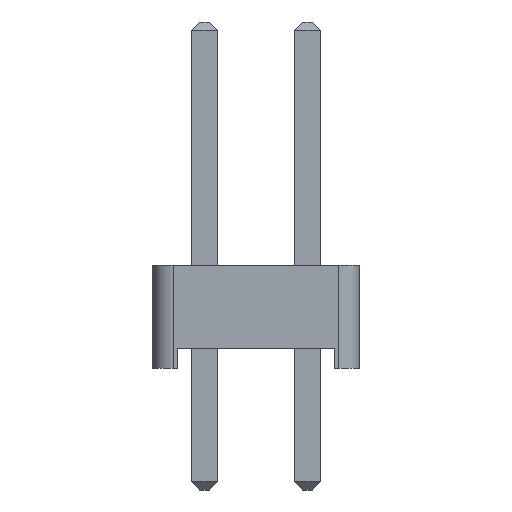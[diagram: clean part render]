
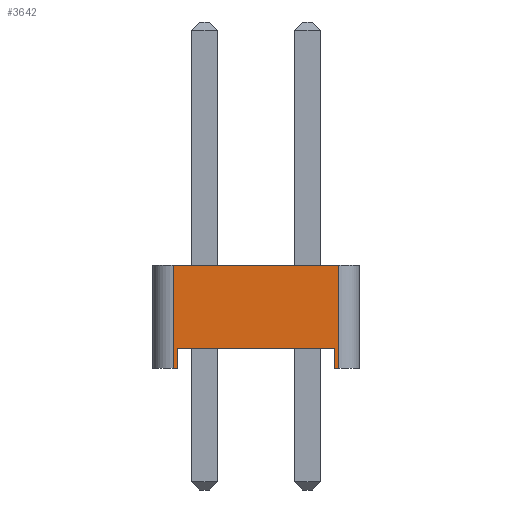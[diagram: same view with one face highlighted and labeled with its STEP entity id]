
A CAD part, left-side view. The second image highlights one B-rep face of the part: STEP entity #3642.
In plain terms, the highlighted planar face has unit normal (-1, 0, 0).
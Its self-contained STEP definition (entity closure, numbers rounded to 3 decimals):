
#3382 = VERTEX_POINT('',#3383);
#3383 = CARTESIAN_POINT('',(-1.27,2.04,0.));
#3391 = PLANE('',#3392);
#3392 = AXIS2_PLACEMENT_3D('',#3393,#3394,#3395);
#3393 = CARTESIAN_POINT('',(0.,0.,0.));
#3394 = DIRECTION('',(-0.,-0.,-1.));
#3395 = DIRECTION('',(-1.,0.,0.));
#3407 = CYLINDRICAL_SURFACE('',#3408,0.5);
#3408 = AXIS2_PLACEMENT_3D('',#3409,#3410,#3411);
#3409 = CARTESIAN_POINT('',(-0.77,2.04,0.));
#3410 = DIRECTION('',(0.,0.,1.));
#3411 = DIRECTION('',(0.,1.,0.));
#3509 = VERTEX_POINT('',#3510);
#3510 = CARTESIAN_POINT('',(-1.27,1.94,0.));
#3524 = PLANE('',#3525);
#3525 = AXIS2_PLACEMENT_3D('',#3526,#3527,#3528);
#3526 = CARTESIAN_POINT('',(1.27,1.94,0.));
#3527 = DIRECTION('',(0.,-1.,0.));
#3528 = DIRECTION('',(-1.,0.,0.));
#3536 = EDGE_CURVE('',#3509,#3382,#3537,.T.);
#3537 = SURFACE_CURVE('',#3538,(#3542,#3549),.PCURVE_S1.);
#3538 = LINE('',#3539,#3540);
#3539 = CARTESIAN_POINT('',(-1.27,-2.54,0.));
#3540 = VECTOR('',#3541,1.);
#3541 = DIRECTION('',(0.,1.,0.));
#3542 = PCURVE('',#3391,#3543);
#3543 = DEFINITIONAL_REPRESENTATION('',(#3544),#3548);
#3544 = LINE('',#3545,#3546);
#3545 = CARTESIAN_POINT('',(1.27,-2.54));
#3546 = VECTOR('',#3547,1.);
#3547 = DIRECTION('',(0.,1.));
#3548 = ( GEOMETRIC_REPRESENTATION_CONTEXT(2) 
PARAMETRIC_REPRESENTATION_CONTEXT() REPRESENTATION_CONTEXT('2D SPACE',''
  ) );
#3549 = PCURVE('',#3550,#3555);
#3550 = PLANE('',#3551);
#3551 = AXIS2_PLACEMENT_3D('',#3552,#3553,#3554);
#3552 = CARTESIAN_POINT('',(-1.27,-2.54,0.));
#3553 = DIRECTION('',(-1.,0.,0.));
#3554 = DIRECTION('',(0.,1.,0.));
#3555 = DEFINITIONAL_REPRESENTATION('',(#3556),#3560);
#3556 = LINE('',#3557,#3558);
#3557 = CARTESIAN_POINT('',(0.,0.));
#3558 = VECTOR('',#3559,1.);
#3559 = DIRECTION('',(1.,0.));
#3560 = ( GEOMETRIC_REPRESENTATION_CONTEXT(2) 
PARAMETRIC_REPRESENTATION_CONTEXT() REPRESENTATION_CONTEXT('2D SPACE',''
  ) );
#3566 = EDGE_CURVE('',#3382,#3567,#3569,.T.);
#3567 = VERTEX_POINT('',#3568);
#3568 = CARTESIAN_POINT('',(-1.27,2.04,2.54));
#3569 = SURFACE_CURVE('',#3570,(#3574,#3581),.PCURVE_S1.);
#3570 = LINE('',#3571,#3572);
#3571 = CARTESIAN_POINT('',(-1.27,2.04,0.));
#3572 = VECTOR('',#3573,1.);
#3573 = DIRECTION('',(0.,0.,1.));
#3574 = PCURVE('',#3407,#3575);
#3575 = DEFINITIONAL_REPRESENTATION('',(#3576),#3580);
#3576 = LINE('',#3577,#3578);
#3577 = CARTESIAN_POINT('',(1.571,0.));
#3578 = VECTOR('',#3579,1.);
#3579 = DIRECTION('',(0.,1.));
#3580 = ( GEOMETRIC_REPRESENTATION_CONTEXT(2) 
PARAMETRIC_REPRESENTATION_CONTEXT() REPRESENTATION_CONTEXT('2D SPACE',''
  ) );
#3581 = PCURVE('',#3550,#3582);
#3582 = DEFINITIONAL_REPRESENTATION('',(#3583),#3587);
#3583 = LINE('',#3584,#3585);
#3584 = CARTESIAN_POINT('',(4.58,0.));
#3585 = VECTOR('',#3586,1.);
#3586 = DIRECTION('',(0.,-1.));
#3587 = ( GEOMETRIC_REPRESENTATION_CONTEXT(2) 
PARAMETRIC_REPRESENTATION_CONTEXT() REPRESENTATION_CONTEXT('2D SPACE',''
  ) );
#3606 = PLANE('',#3607);
#3607 = AXIS2_PLACEMENT_3D('',#3608,#3609,#3610);
#3608 = CARTESIAN_POINT('',(0.,0.,2.54));
#3609 = DIRECTION('',(-0.,-0.,-1.));
#3610 = DIRECTION('',(-1.,0.,0.));
#3642 = ADVANCED_FACE('',(#3643),#3550,.T.);
#3643 = FACE_BOUND('',#3644,.T.);
#3644 = EDGE_LOOP('',(#3645,#3675,#3703,#3724,#3725,#3726,#3749,#3777));
#3645 = ORIENTED_EDGE('',*,*,#3646,.F.);
#3646 = EDGE_CURVE('',#3647,#3649,#3651,.T.);
#3647 = VERTEX_POINT('',#3648);
#3648 = CARTESIAN_POINT('',(-1.27,-2.04,0.));
#3649 = VERTEX_POINT('',#3650);
#3650 = CARTESIAN_POINT('',(-1.27,-1.94,0.));
#3651 = SURFACE_CURVE('',#3652,(#3656,#3663),.PCURVE_S1.);
#3652 = LINE('',#3653,#3654);
#3653 = CARTESIAN_POINT('',(-1.27,-2.54,0.));
#3654 = VECTOR('',#3655,1.);
#3655 = DIRECTION('',(0.,1.,0.));
#3656 = PCURVE('',#3550,#3657);
#3657 = DEFINITIONAL_REPRESENTATION('',(#3658),#3662);
#3658 = LINE('',#3659,#3660);
#3659 = CARTESIAN_POINT('',(0.,0.));
#3660 = VECTOR('',#3661,1.);
#3661 = DIRECTION('',(1.,0.));
#3662 = ( GEOMETRIC_REPRESENTATION_CONTEXT(2) 
PARAMETRIC_REPRESENTATION_CONTEXT() REPRESENTATION_CONTEXT('2D SPACE',''
  ) );
#3663 = PCURVE('',#3664,#3669);
#3664 = PLANE('',#3665);
#3665 = AXIS2_PLACEMENT_3D('',#3666,#3667,#3668);
#3666 = CARTESIAN_POINT('',(0.,0.,0.));
#3667 = DIRECTION('',(-0.,-0.,-1.));
#3668 = DIRECTION('',(-1.,0.,0.));
#3669 = DEFINITIONAL_REPRESENTATION('',(#3670),#3674);
#3670 = LINE('',#3671,#3672);
#3671 = CARTESIAN_POINT('',(1.27,-2.54));
#3672 = VECTOR('',#3673,1.);
#3673 = DIRECTION('',(0.,1.));
#3674 = ( GEOMETRIC_REPRESENTATION_CONTEXT(2) 
PARAMETRIC_REPRESENTATION_CONTEXT() REPRESENTATION_CONTEXT('2D SPACE',''
  ) );
#3675 = ORIENTED_EDGE('',*,*,#3676,.T.);
#3676 = EDGE_CURVE('',#3647,#3677,#3679,.T.);
#3677 = VERTEX_POINT('',#3678);
#3678 = CARTESIAN_POINT('',(-1.27,-2.04,2.54));
#3679 = SURFACE_CURVE('',#3680,(#3684,#3691),.PCURVE_S1.);
#3680 = LINE('',#3681,#3682);
#3681 = CARTESIAN_POINT('',(-1.27,-2.04,0.));
#3682 = VECTOR('',#3683,1.);
#3683 = DIRECTION('',(0.,0.,1.));
#3684 = PCURVE('',#3550,#3685);
#3685 = DEFINITIONAL_REPRESENTATION('',(#3686),#3690);
#3686 = LINE('',#3687,#3688);
#3687 = CARTESIAN_POINT('',(0.5,0.));
#3688 = VECTOR('',#3689,1.);
#3689 = DIRECTION('',(0.,-1.));
#3690 = ( GEOMETRIC_REPRESENTATION_CONTEXT(2) 
PARAMETRIC_REPRESENTATION_CONTEXT() REPRESENTATION_CONTEXT('2D SPACE',''
  ) );
#3691 = PCURVE('',#3692,#3697);
#3692 = CYLINDRICAL_SURFACE('',#3693,0.5);
#3693 = AXIS2_PLACEMENT_3D('',#3694,#3695,#3696);
#3694 = CARTESIAN_POINT('',(-0.77,-2.04,0.));
#3695 = DIRECTION('',(0.,0.,1.));
#3696 = DIRECTION('',(0.,-1.,0.));
#3697 = DEFINITIONAL_REPRESENTATION('',(#3698),#3702);
#3698 = LINE('',#3699,#3700);
#3699 = CARTESIAN_POINT('',(-1.571,0.));
#3700 = VECTOR('',#3701,1.);
#3701 = DIRECTION('',(-0.,1.));
#3702 = ( GEOMETRIC_REPRESENTATION_CONTEXT(2) 
PARAMETRIC_REPRESENTATION_CONTEXT() REPRESENTATION_CONTEXT('2D SPACE',''
  ) );
#3703 = ORIENTED_EDGE('',*,*,#3704,.T.);
#3704 = EDGE_CURVE('',#3677,#3567,#3705,.T.);
#3705 = SURFACE_CURVE('',#3706,(#3710,#3717),.PCURVE_S1.);
#3706 = LINE('',#3707,#3708);
#3707 = CARTESIAN_POINT('',(-1.27,-2.54,2.54));
#3708 = VECTOR('',#3709,1.);
#3709 = DIRECTION('',(0.,1.,0.));
#3710 = PCURVE('',#3550,#3711);
#3711 = DEFINITIONAL_REPRESENTATION('',(#3712),#3716);
#3712 = LINE('',#3713,#3714);
#3713 = CARTESIAN_POINT('',(0.,-2.54));
#3714 = VECTOR('',#3715,1.);
#3715 = DIRECTION('',(1.,0.));
#3716 = ( GEOMETRIC_REPRESENTATION_CONTEXT(2) 
PARAMETRIC_REPRESENTATION_CONTEXT() REPRESENTATION_CONTEXT('2D SPACE',''
  ) );
#3717 = PCURVE('',#3606,#3718);
#3718 = DEFINITIONAL_REPRESENTATION('',(#3719),#3723);
#3719 = LINE('',#3720,#3721);
#3720 = CARTESIAN_POINT('',(1.27,-2.54));
#3721 = VECTOR('',#3722,1.);
#3722 = DIRECTION('',(0.,1.));
#3723 = ( GEOMETRIC_REPRESENTATION_CONTEXT(2) 
PARAMETRIC_REPRESENTATION_CONTEXT() REPRESENTATION_CONTEXT('2D SPACE',''
  ) );
#3724 = ORIENTED_EDGE('',*,*,#3566,.F.);
#3725 = ORIENTED_EDGE('',*,*,#3536,.F.);
#3726 = ORIENTED_EDGE('',*,*,#3727,.T.);
#3727 = EDGE_CURVE('',#3509,#3728,#3730,.T.);
#3728 = VERTEX_POINT('',#3729);
#3729 = CARTESIAN_POINT('',(-1.27,1.94,0.5));
#3730 = SURFACE_CURVE('',#3731,(#3735,#3742),.PCURVE_S1.);
#3731 = LINE('',#3732,#3733);
#3732 = CARTESIAN_POINT('',(-1.27,1.94,0.));
#3733 = VECTOR('',#3734,1.);
#3734 = DIRECTION('',(0.,0.,1.));
#3735 = PCURVE('',#3550,#3736);
#3736 = DEFINITIONAL_REPRESENTATION('',(#3737),#3741);
#3737 = LINE('',#3738,#3739);
#3738 = CARTESIAN_POINT('',(4.48,0.));
#3739 = VECTOR('',#3740,1.);
#3740 = DIRECTION('',(0.,-1.));
#3741 = ( GEOMETRIC_REPRESENTATION_CONTEXT(2) 
PARAMETRIC_REPRESENTATION_CONTEXT() REPRESENTATION_CONTEXT('2D SPACE',''
  ) );
#3742 = PCURVE('',#3524,#3743);
#3743 = DEFINITIONAL_REPRESENTATION('',(#3744),#3748);
#3744 = LINE('',#3745,#3746);
#3745 = CARTESIAN_POINT('',(2.54,0.));
#3746 = VECTOR('',#3747,1.);
#3747 = DIRECTION('',(0.,-1.));
#3748 = ( GEOMETRIC_REPRESENTATION_CONTEXT(2) 
PARAMETRIC_REPRESENTATION_CONTEXT() REPRESENTATION_CONTEXT('2D SPACE',''
  ) );
#3749 = ORIENTED_EDGE('',*,*,#3750,.T.);
#3750 = EDGE_CURVE('',#3728,#3751,#3753,.T.);
#3751 = VERTEX_POINT('',#3752);
#3752 = CARTESIAN_POINT('',(-1.27,-1.94,0.5));
#3753 = SURFACE_CURVE('',#3754,(#3758,#3765),.PCURVE_S1.);
#3754 = LINE('',#3755,#3756);
#3755 = CARTESIAN_POINT('',(-1.27,1.94,0.5));
#3756 = VECTOR('',#3757,1.);
#3757 = DIRECTION('',(0.,-1.,0.));
#3758 = PCURVE('',#3550,#3759);
#3759 = DEFINITIONAL_REPRESENTATION('',(#3760),#3764);
#3760 = LINE('',#3761,#3762);
#3761 = CARTESIAN_POINT('',(4.48,-0.5));
#3762 = VECTOR('',#3763,1.);
#3763 = DIRECTION('',(-1.,0.));
#3764 = ( GEOMETRIC_REPRESENTATION_CONTEXT(2) 
PARAMETRIC_REPRESENTATION_CONTEXT() REPRESENTATION_CONTEXT('2D SPACE',''
  ) );
#3765 = PCURVE('',#3766,#3771);
#3766 = PLANE('',#3767);
#3767 = AXIS2_PLACEMENT_3D('',#3768,#3769,#3770);
#3768 = CARTESIAN_POINT('',(0.,0.,0.5));
#3769 = DIRECTION('',(0.,0.,1.));
#3770 = DIRECTION('',(1.,0.,0.));
#3771 = DEFINITIONAL_REPRESENTATION('',(#3772),#3776);
#3772 = LINE('',#3773,#3774);
#3773 = CARTESIAN_POINT('',(-1.27,1.94));
#3774 = VECTOR('',#3775,1.);
#3775 = DIRECTION('',(0.,-1.));
#3776 = ( GEOMETRIC_REPRESENTATION_CONTEXT(2) 
PARAMETRIC_REPRESENTATION_CONTEXT() REPRESENTATION_CONTEXT('2D SPACE',''
  ) );
#3777 = ORIENTED_EDGE('',*,*,#3778,.F.);
#3778 = EDGE_CURVE('',#3649,#3751,#3779,.T.);
#3779 = SURFACE_CURVE('',#3780,(#3784,#3791),.PCURVE_S1.);
#3780 = LINE('',#3781,#3782);
#3781 = CARTESIAN_POINT('',(-1.27,-1.94,0.));
#3782 = VECTOR('',#3783,1.);
#3783 = DIRECTION('',(0.,0.,1.));
#3784 = PCURVE('',#3550,#3785);
#3785 = DEFINITIONAL_REPRESENTATION('',(#3786),#3790);
#3786 = LINE('',#3787,#3788);
#3787 = CARTESIAN_POINT('',(0.6,0.));
#3788 = VECTOR('',#3789,1.);
#3789 = DIRECTION('',(0.,-1.));
#3790 = ( GEOMETRIC_REPRESENTATION_CONTEXT(2) 
PARAMETRIC_REPRESENTATION_CONTEXT() REPRESENTATION_CONTEXT('2D SPACE',''
  ) );
#3791 = PCURVE('',#3792,#3797);
#3792 = PLANE('',#3793);
#3793 = AXIS2_PLACEMENT_3D('',#3794,#3795,#3796);
#3794 = CARTESIAN_POINT('',(-1.27,-1.94,0.));
#3795 = DIRECTION('',(0.,1.,0.));
#3796 = DIRECTION('',(1.,0.,0.));
#3797 = DEFINITIONAL_REPRESENTATION('',(#3798),#3802);
#3798 = LINE('',#3799,#3800);
#3799 = CARTESIAN_POINT('',(0.,0.));
#3800 = VECTOR('',#3801,1.);
#3801 = DIRECTION('',(0.,-1.));
#3802 = ( GEOMETRIC_REPRESENTATION_CONTEXT(2) 
PARAMETRIC_REPRESENTATION_CONTEXT() REPRESENTATION_CONTEXT('2D SPACE',''
  ) );
